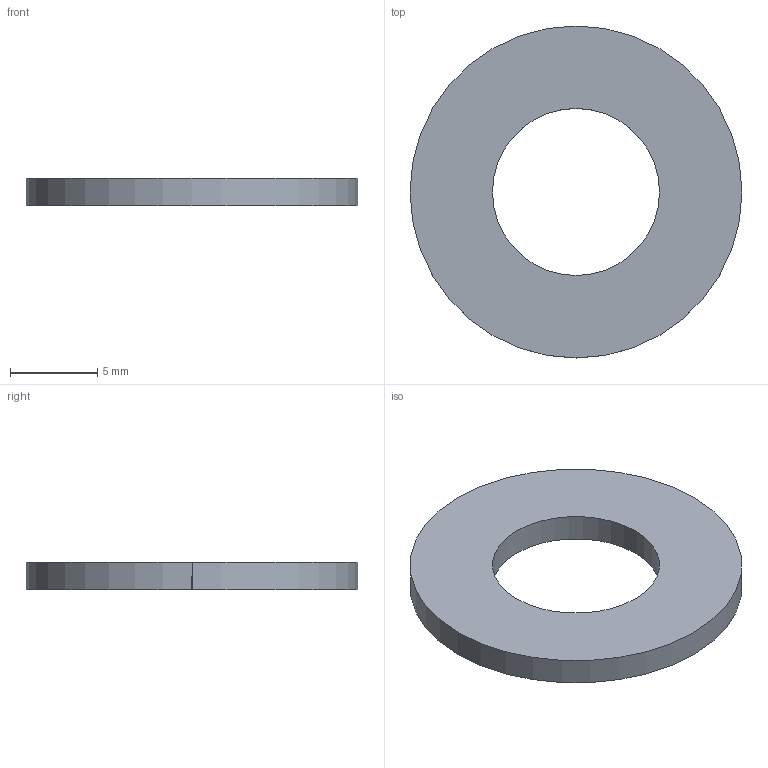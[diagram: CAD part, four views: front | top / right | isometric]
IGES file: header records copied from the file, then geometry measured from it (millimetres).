
Global section: file name: C:\Documents and Settings\Administrator\Desktop\Transfer Temp\tbb-6-12.igs; native system: AutoDesk Inventor R2.0 ; preprocessor: AutoDesk Inventor Iges Exporter R2.0; author: No Author specified; organization: No Organization specified; date: 20011230.161859; units: inch
Bounding box: 19.05 x 19.05 x 1.56 mm (x, y, z)
Surface area: 566.2 mm2 (no closed solid volume)
Topology: 0 solids, 0 shells, 6 faces, 24 edges, 24 vertices
Faces by surface type: revolution 4, bspline 2
